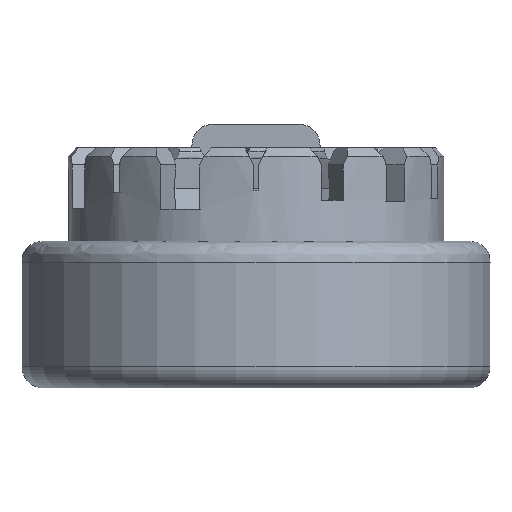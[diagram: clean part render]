
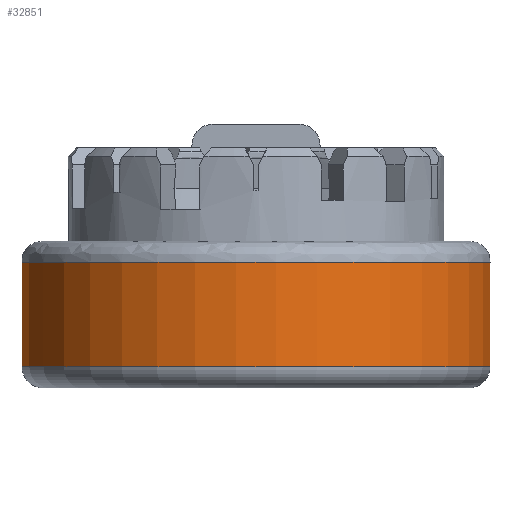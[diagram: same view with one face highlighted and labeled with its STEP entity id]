
A CAD part, front view. The second image highlights one B-rep face of the part: STEP entity #32851.
In plain terms, the highlighted cylindrical face has radius 34.925 mm (diameter 69.85 mm), a partial arc.
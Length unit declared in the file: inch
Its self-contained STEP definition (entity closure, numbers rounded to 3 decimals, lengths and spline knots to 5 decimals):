
#32065=CARTESIAN_POINT('',(11.37125,47.38473,45.96108));
#32066=VERTEX_POINT('',#32065);
#32218=CARTESIAN_POINT('',(10.19268,47.38473,45.96108));
#32219=VERTEX_POINT('',#32218);
#32235=CARTESIAN_POINT('',(10.78196,46.14241,45.96108));
#32236=DIRECTION('',(0.0,0.0,1.));
#32237=DIRECTION('',(-0.429,0.904,0.0));
#32238=AXIS2_PLACEMENT_3D('',#32235,#32236,#32237);
#32239=CIRCLE('',#32238,1.375);
#32240=EDGE_CURVE('',#32219,#32066,#32239,.T.);
#32330=CARTESIAN_POINT('',(10.19268,47.38473,45.35108));
#32331=VERTEX_POINT('',#32330);
#32339=CARTESIAN_POINT('',(10.19268,47.38473,45.96108));
#32340=DIRECTION('',(0.0,0.0,-1.0));
#32341=VECTOR('',#32340,0.61);
#32342=LINE('',#32339,#32341);
#32343=EDGE_CURVE('',#32219,#32331,#32342,.T.);
#32524=CARTESIAN_POINT('',(11.37125,47.38473,45.35108));
#32525=VERTEX_POINT('',#32524);
#32533=CARTESIAN_POINT('',(10.78196,46.14241,45.35108));
#32534=DIRECTION('',(0.0,0.0,-1.0));
#32535=DIRECTION('',(0.,-1.0,0.0));
#32536=AXIS2_PLACEMENT_3D('',#32533,#32534,#32535);
#32537=CIRCLE('',#32536,1.375);
#32538=EDGE_CURVE('',#32525,#32331,#32537,.T.);
#32835=CARTESIAN_POINT('',(10.78196,46.14241,46.08608));
#32836=DIRECTION('',(0.0,0.0,-1.0));
#32837=DIRECTION('',(0.,-1.0,0.0));
#32838=AXIS2_PLACEMENT_3D('',#32835,#32836,#32837);
#32839=CYLINDRICAL_SURFACE('',#32838,1.375);
#32840=ORIENTED_EDGE('',*,*,#32240,.F.);
#32841=ORIENTED_EDGE('',*,*,#32343,.T.);
#32842=ORIENTED_EDGE('',*,*,#32538,.F.);
#32843=CARTESIAN_POINT('',(11.37125,47.38473,45.96108));
#32844=DIRECTION('',(0.0,0.0,-1.0));
#32845=VECTOR('',#32844,0.61);
#32846=LINE('',#32843,#32845);
#32847=EDGE_CURVE('',#32066,#32525,#32846,.T.);
#32848=ORIENTED_EDGE('',*,*,#32847,.F.);
#32849=EDGE_LOOP('',(#32840,#32841,#32842,#32848));
#32850=FACE_OUTER_BOUND('',#32849,.T.);
#32851=ADVANCED_FACE('',(#32850),#32839,.T.);
